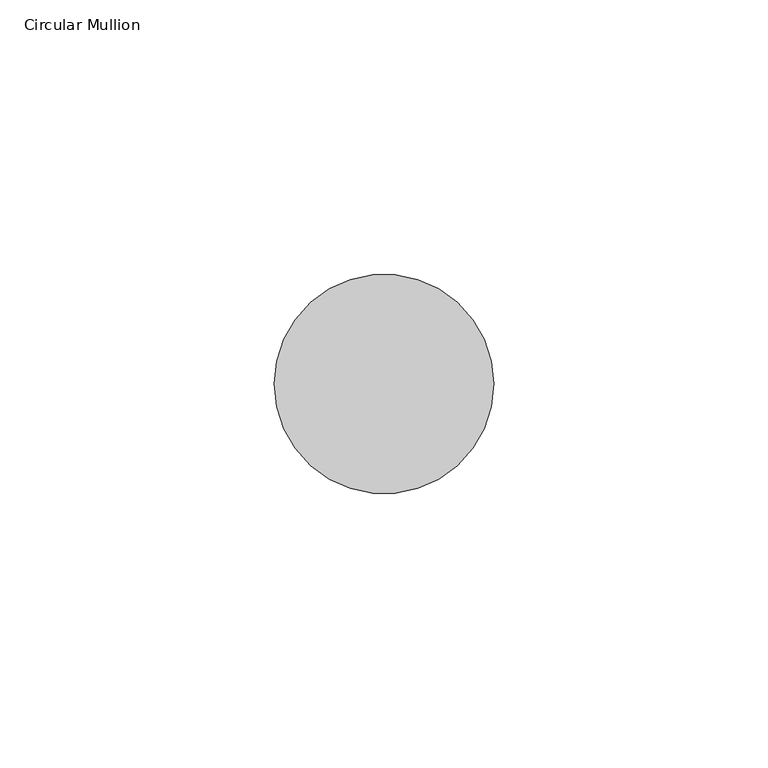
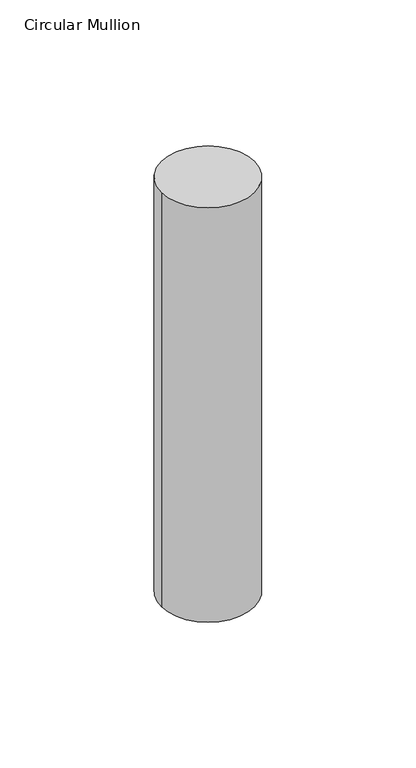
"""IFC4 building model written with IfcOpenShell, lengths in millimetres: member geometry, Circular Mullion : GRADIL 40mm."""

from ifc_helpers import new_model, si_unit, point, frame, origin, origin_2d, place, context, project, spatial, circle_curve, trimmed, segment, composite_curve, outline, extrude, source, transform, mapped, element, save


def circular_mullion_5a352fbb(model_context):
    return source(origin(), model_context, "Body", "SweptSolid", [
        extrude(outline(composite_curve([segment(trimmed(circle_curve(origin_2d(), 20.0), [point((20.0, 0.0))], [point((-20.0, 0.0))], False, "CARTESIAN"), True, "CONTINUOUS"), segment(trimmed(circle_curve(origin_2d(), 20.0), [point((-20.0, 0.0))], [point((20.0, 0.0))], False, "CARTESIAN"), True, "CONTINUOUS")], self_intersect=False)), frame((0.0, 0.0, -187.8940617), z_axis=(0.0, 0.0, 1.0), x_axis=(1.0, 0.0, 0.0)), (0.0, 0.0, 1.0), 187.8940617),
    ])


if __name__ == "__main__":
    model = new_model("IFC4")
    model_context = context("Model", 3, world=origin())
    ifc_project = project(units=[si_unit("LENGTHUNIT", "METRE", prefix="MILLI")], contexts=[model_context])
    site = spatial("IfcSite", under=ifc_project)
    building = spatial("IfcBuilding", under=site)
    placement = place(None, origin())
    circular_mullion_shape = circular_mullion_5a352fbb(model_context)
    element("IfcMember", 1, ObjectType="Circular Mullion : GRADIL 40mm", at=placement, inside=building, context=model_context, shape_type="MappedRepresentation", body=[
        mapped(circular_mullion_shape, transform((0.0, 0.0, 0.0), x_axis=(1.0, 0.0, 0.0), y_axis=(0.0, 1.0, 0.0), z_axis=(0.0, 0.0, 1.0))),
    ])
    save(model, "model.ifc")
